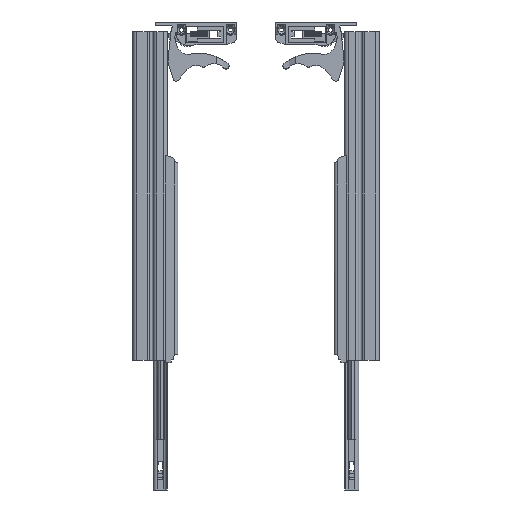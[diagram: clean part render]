
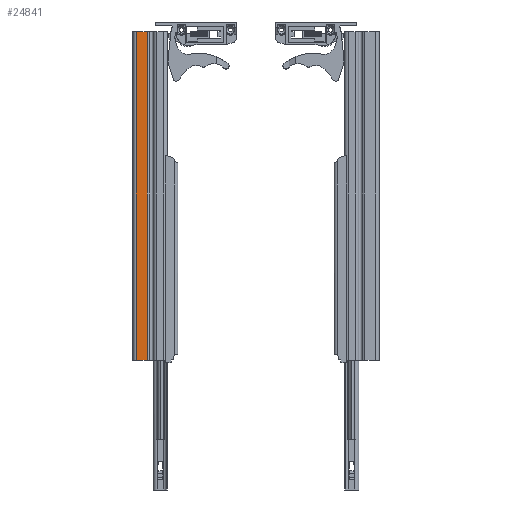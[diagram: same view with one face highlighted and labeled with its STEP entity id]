
A CAD part, front view. The second image highlights one B-rep face of the part: STEP entity #24841.
In plain terms, the highlighted planar face has unit normal (0, -1, 0).
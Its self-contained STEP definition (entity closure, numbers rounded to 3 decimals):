
#151 = VECTOR ( 'NONE', #23906, 1000. ) ;
#334 = LINE ( 'NONE', #29617, #151 ) ;
#1244 = EDGE_CURVE ( 'NONE', #27205, #9193, #5957, .T. ) ;
#2616 = VECTOR ( 'NONE', #27871, 1000. ) ;
#3240 = CARTESIAN_POINT ( 'NONE',  ( 3.7, 5.9, -328. ) ) ;
#4163 = DIRECTION ( 'NONE',  ( 0., 0., -1. ) ) ;
#5015 = ORIENTED_EDGE ( 'NONE', *, *, #14501, .F. ) ;
#5303 = CARTESIAN_POINT ( 'NONE',  ( 14.267, 5.9, -8. ) ) ;
#5385 = VECTOR ( 'NONE', #9697, 1000. ) ;
#5957 = LINE ( 'NONE', #10931, #2616 ) ;
#6286 = VERTEX_POINT ( 'NONE', #24728 ) ;
#9193 = VERTEX_POINT ( 'NONE', #5303 ) ;
#9697 = DIRECTION ( 'NONE',  ( 1., 0., 0. ) ) ;
#10931 = CARTESIAN_POINT ( 'NONE',  ( 14.267, 5.9, -328. ) ) ;
#11372 = FACE_OUTER_BOUND ( 'NONE', #30581, .T. ) ;
#11984 = EDGE_CURVE ( 'NONE', #12228, #27205, #334, .T. ) ;
#12228 = VERTEX_POINT ( 'NONE', #3240 ) ;
#14501 = EDGE_CURVE ( 'NONE', #6286, #9193, #17524, .T. ) ;
#15316 = VECTOR ( 'NONE', #27155, 1000. ) ;
#17224 = LINE ( 'NONE', #22688, #15316 ) ;
#17524 = LINE ( 'NONE', #31576, #5385 ) ;
#20761 = EDGE_CURVE ( 'NONE', #12228, #6286, #17224, .T. ) ;
#22688 = CARTESIAN_POINT ( 'NONE',  ( 3.7, 5.9, -328. ) ) ;
#23906 = DIRECTION ( 'NONE',  ( 1., 0., 0. ) ) ;
#24728 = CARTESIAN_POINT ( 'NONE',  ( 3.7, 5.9, -8. ) ) ;
#24841 = ADVANCED_FACE ( 'NONE', ( #11372 ), #26548, .T. ) ;
#25368 = ORIENTED_EDGE ( 'NONE', *, *, #20761, .F. ) ;
#26548 = PLANE ( 'NONE',  #27191 ) ;
#27155 = DIRECTION ( 'NONE',  ( 0., 0., 1. ) ) ;
#27191 = AXIS2_PLACEMENT_3D ( 'NONE', #30862, #31170, #4163 ) ;
#27205 = VERTEX_POINT ( 'NONE', #29495 ) ;
#27871 = DIRECTION ( 'NONE',  ( 0., 0., 1. ) ) ;
#29495 = CARTESIAN_POINT ( 'NONE',  ( 14.267, 5.9, -328. ) ) ;
#29614 = ORIENTED_EDGE ( 'NONE', *, *, #1244, .T. ) ;
#29617 = CARTESIAN_POINT ( 'NONE',  ( 3.7, 5.9, -328. ) ) ;
#29781 = ORIENTED_EDGE ( 'NONE', *, *, #11984, .T. ) ;
#30581 = EDGE_LOOP ( 'NONE', ( #5015, #25368, #29781, #29614 ) ) ;
#30862 = CARTESIAN_POINT ( 'NONE',  ( 3.7, 5.9, -328. ) ) ;
#31170 = DIRECTION ( 'NONE',  ( 0., -1., 0. ) ) ;
#31576 = CARTESIAN_POINT ( 'NONE',  ( 3.7, 5.9, -8. ) ) ;
